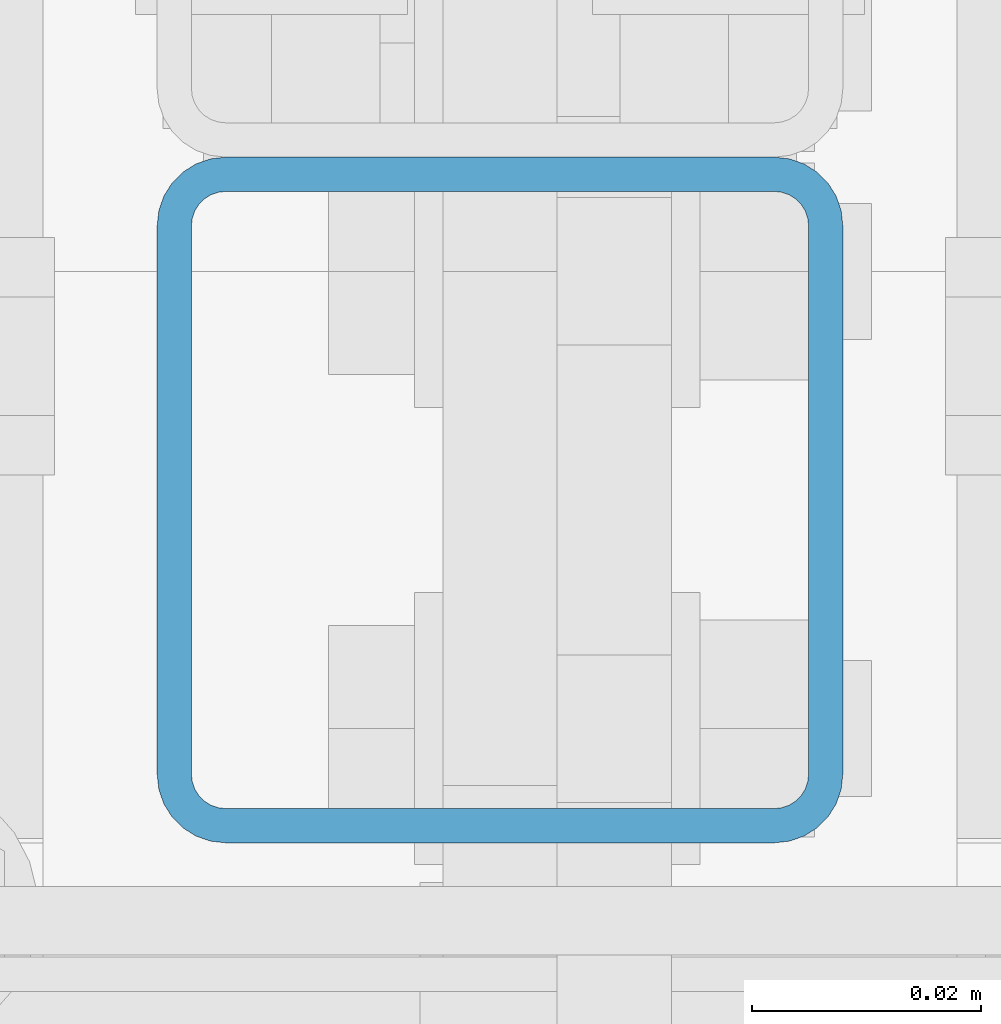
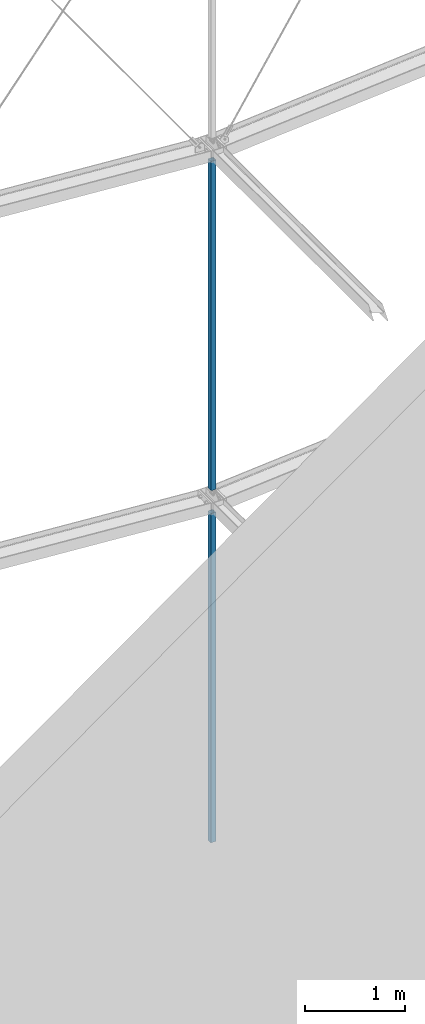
# One storey, part 22 of 271: 2 beams, 2 elements without a shape of their own.
"""IFC2X3 building model written with IfcOpenShell, lengths in millimetres."""

from ifc_helpers import new_model, si_unit, frame, origin_with_axes, origin_2d_with_axis, place, context, subcontext, project, spatial, hollow_rectangle, extrude, clip, halfspace, material, type_object, element, aggregate, save


model = new_model("IFC2X3")

# Units and contexts
model_context = context("Model", 3, precision=1e-05, world=origin_with_axes())
body_context = subcontext(model_context, "Body", "Model", "MODEL_VIEW")
ifc_project = project(units=[si_unit("LENGTHUNIT", "METRE", prefix="MILLI"), si_unit("AREAUNIT", "SQUARE_METRE"), si_unit("VOLUMEUNIT", "CUBIC_METRE"), si_unit("MASSUNIT", "GRAM", prefix="KILO"), si_unit("TIMEUNIT", "SECOND"), si_unit("PLANEANGLEUNIT", "RADIAN"), si_unit("SOLIDANGLEUNIT", "STERADIAN"), si_unit("THERMODYNAMICTEMPERATUREUNIT", "DEGREE_CELSIUS"), si_unit("LUMINOUSINTENSITYUNIT", "LUMEN")], contexts=[model_context])

# Site, building, storey
site_placement = place(None, origin_with_axes())
site = spatial("IfcSite", under=ifc_project, at=site_placement, Name="Undefined", CompositionType="ELEMENT")
building_placement = place(site_placement, origin_with_axes())
building = spatial("IfcBuilding", under=site, at=building_placement, Name="Undefined", CompositionType="ELEMENT")
storey_placement = place(building_placement, origin_with_axes())
storey = spatial("IfcBuildingStorey", under=building, at=storey_placement, Name="Undefined", CompositionType="ELEMENT", Elevation=0.0)

# Assembly, beam
assembly_1_placement = place(storey_placement, origin_with_axes())
assembly_1 = element("IfcElementAssembly", 1, at=assembly_1_placement, inside=storey, AssemblyPlace="NOTDEFINED", PredefinedType="RIGID_FRAME")
ifc_material = material(Name="STEEL/S355JR")
beam_type = type_object("IfcBeamType", Name="SHS60*3", PredefinedType="NOTDEFINED")
beam_1_placement = place(assembly_1_placement, frame((6348.37568736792, 3704.92439872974, 10001.049999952), z_axis=(0.0, 1.0, 0.0), x_axis=(0.0, 0.0, 1.0)))
beam_1 = element("IfcBeam", 2, at=beam_1_placement, type_object=beam_type, material=ifc_material, Name="TĘŻNIK", ObjectType="SHS60*3", context=body_context, shape_type="Clipping", body=[
    clip(clip(extrude(hollow_rectangle(XDim=60.0, YDim=60.0, WallThickness=3.0, InnerFilletRadius=3.0, OuterFilletRadius=6.0, at=origin_2d_with_axis()), frame((4320.0, 0.0, 9.09494701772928e-13), z_axis=(-1.0, 0.0, 1.38777878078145e-17), x_axis=(0.0, -1.0, 0.0)), (0.0, 0.0, 1.0), 4320.0), halfspace(frame((4182.5499999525, 15.0, 0.0), z_axis=(-1.0, 0.0, 1.38777878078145e-17), x_axis=(0.0, 0.0, 1.0)), True)), halfspace(frame((144.0499999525, 15.0, 0.0), z_axis=(1.0, 0.0, 0.0), x_axis=(0.0, 0.0, -1.0)), True)),
])
aggregate(assembly_1, [beam_1])

assembly_2_placement = place(storey_placement, origin_with_axes())
assembly_2 = element("IfcElementAssembly", 3, at=assembly_2_placement, inside=storey, AssemblyPlace="NOTDEFINED", PredefinedType="RIGID_FRAME")
beam_2_placement = place(assembly_2_placement, frame((6348.37568736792, 3704.92439872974, 5681.04999995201), z_axis=(0.0, 1.0, 0.0), x_axis=(0.0, 0.0, 1.0)))
beam_2 = element("IfcBeam", 4, at=beam_2_placement, type_object=beam_type, material=ifc_material, Name="TĘŻNIK", ObjectType="SHS60*3", context=body_context, shape_type="Clipping", body=[
    clip(clip(extrude(hollow_rectangle(XDim=60.0, YDim=60.0, WallThickness=3.0, InnerFilletRadius=3.0, OuterFilletRadius=6.0, at=origin_2d_with_axis()), frame((4320.0, 0.0, 9.09494701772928e-13), z_axis=(-1.0, 0.0, 1.38777878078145e-17), x_axis=(0.0, -1.0, 0.0)), (0.0, 0.0, 1.0), 4320.0), halfspace(frame((4182.5499999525, 15.0, 0.0), z_axis=(-1.0, 0.0, 1.38777878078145e-17), x_axis=(0.0, 0.0, 1.0)), True)), halfspace(frame((144.0499999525, 15.0, 0.0), z_axis=(1.0, 0.0, 0.0), x_axis=(0.0, 0.0, -1.0)), True)),
])
aggregate(assembly_2, [beam_2])

save(model, "model.ifc")
